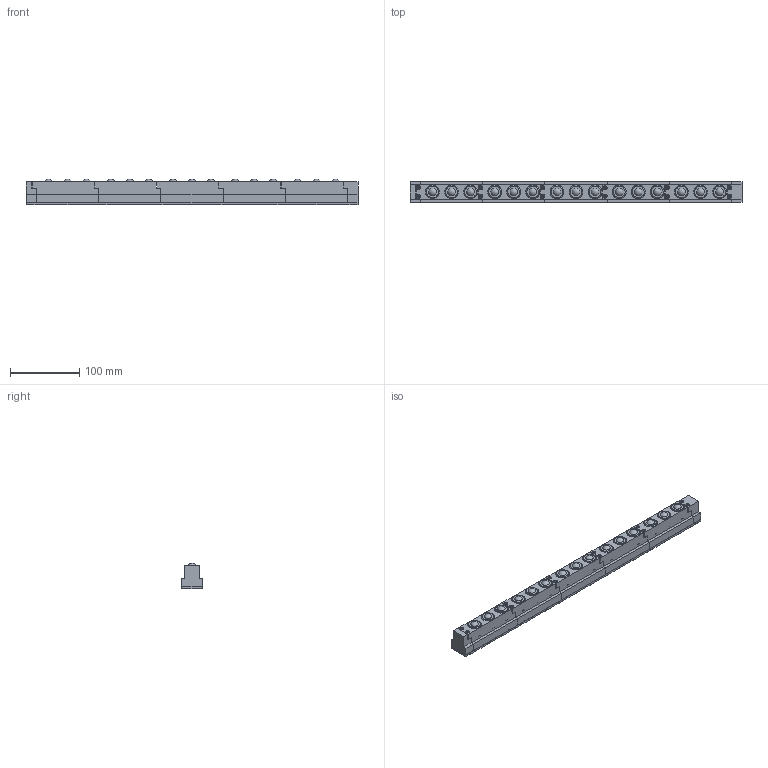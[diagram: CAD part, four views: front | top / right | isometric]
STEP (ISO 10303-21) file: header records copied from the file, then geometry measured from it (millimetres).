
FILE_DESCRIPTION(/* description */ (''),/* implementation_level */ '2;1');
FILE_NAME(/* name */ 'Z:\34-Tei\01-web 3Dデータ\44-ISR-22T\X2\578B\X0\\ISR-22T-480.stp',/* time_stamp */ '2015-01-16T11:15:14+09:00',/* author */ ('yamaki'),/* organization */ (''),/* preprocessor_version */ 'ST-DEVELOPER v15.6',/* originating_system */ 'Autodesk Inventor 2015',/* authorisation */ '');
FILE_SCHEMA (('AUTOMOTIVE_DESIGN { 1 0 10303 214 3 1 1 }'));
Length unit declared in the file: millimetre
Products named in the file (9): 4A03SL; JIS B 1176 - M3 x 10; A213AA; 4A03PS; JIS B 1111 - Csunk M4 x 8 - H; 4A03BA-05; 4A03TB; 4A03CB; 4A03AA
Bounding box: 480 x 30 x 36.96 mm (x, y, z)
Volume: 334539 mm3; surface area: 202932.6 mm2
Topology: 94 solids, 94 shells, 2476 faces, 5994 edges, 3811 vertices
Faces by surface type: plane 896, cone 702, cylinder 528, torus 335, sphere 15
Full cylindrical faces by diameter (mm): 2 x11, 2.459 x12, 2.5 x10, 3 x12, 3.242 x44, 3.5 x12, 3.571 x44, 4 x44, 4.5 x44, 5.5 x12, 6 x15, 6.1 x15, 6.2 x6, 8.4 x44, 8.566 x1, 13 x15, 16.5 x15, 19 x15, 19.9 x15, 20 x45, 23.8 x30, 24 x15
Entity records: 9096 total; most frequent: CARTESIAN_POINT 1623, DIRECTION 1622, ORIENTED_EDGE 1140, AXIS2_PLACEMENT_3D 691, EDGE_CURVE 570, EDGE_LOOP 556, VERTEX_POINT 432, FACE_OUTER_BOUND 300
